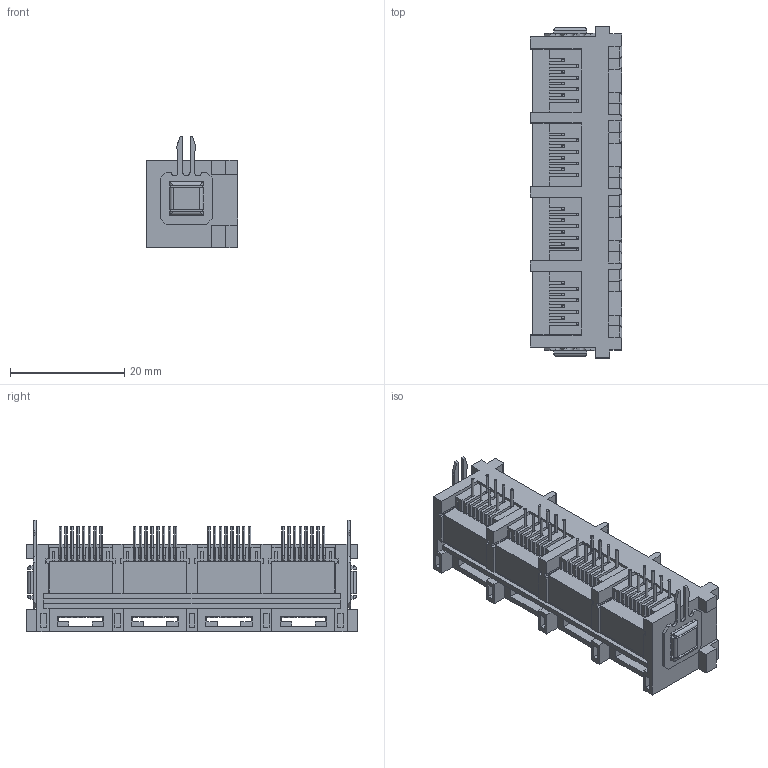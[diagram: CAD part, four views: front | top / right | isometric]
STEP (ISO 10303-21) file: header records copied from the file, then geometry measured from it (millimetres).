
FILE_DESCRIPTION((''),'2;1');
FILE_NAME('5225-1X4-8P8C-90_ASM','2021-05-06T13:33:22',('CSCE02'),(''),'CREO PARAMETRIC BY PTC INC, 2020281','CREO PARAMETRIC BY PTC INC, 2020281','');
FILE_SCHEMA(('CONFIG_CONTROL_DESIGN','GEOMETRIC_VALIDATION_PROPERTIES_MIM'));
Length unit declared in the file: millimetre
Products named in the file (4): 5225-8P-1X4-90-SK; 5225-8P-90-CX; 522500; 5225-1X4-8P8C-90_ASM
Assembly tree (9 placements, depth 2):
  5225-1X4-8P8C-90_ASM
    5225-8P-1X4-90-SK
    5225-8P-90-CX  x6
    522500  x2
Bounding box: 16 x 58.14 x 19.6 mm (x, y, z)
Volume: 7480.5 mm3; surface area: 15289.7 mm2
Topology: 57 solids, 57 shells, 2605 faces, 7184 edges, 4596 vertices
Faces by surface type: plane 1539, cylinder 874, torus 192
Entity records: 32331 total; most frequent: CARTESIAN_POINT 5734, ORIENTED_EDGE 5340, DIRECTION 4988, EDGE_CURVE 2670, VECTOR 2212, LINE 2212, VERTEX_POINT 1710, AXIS2_PLACEMENT_3D 1388
